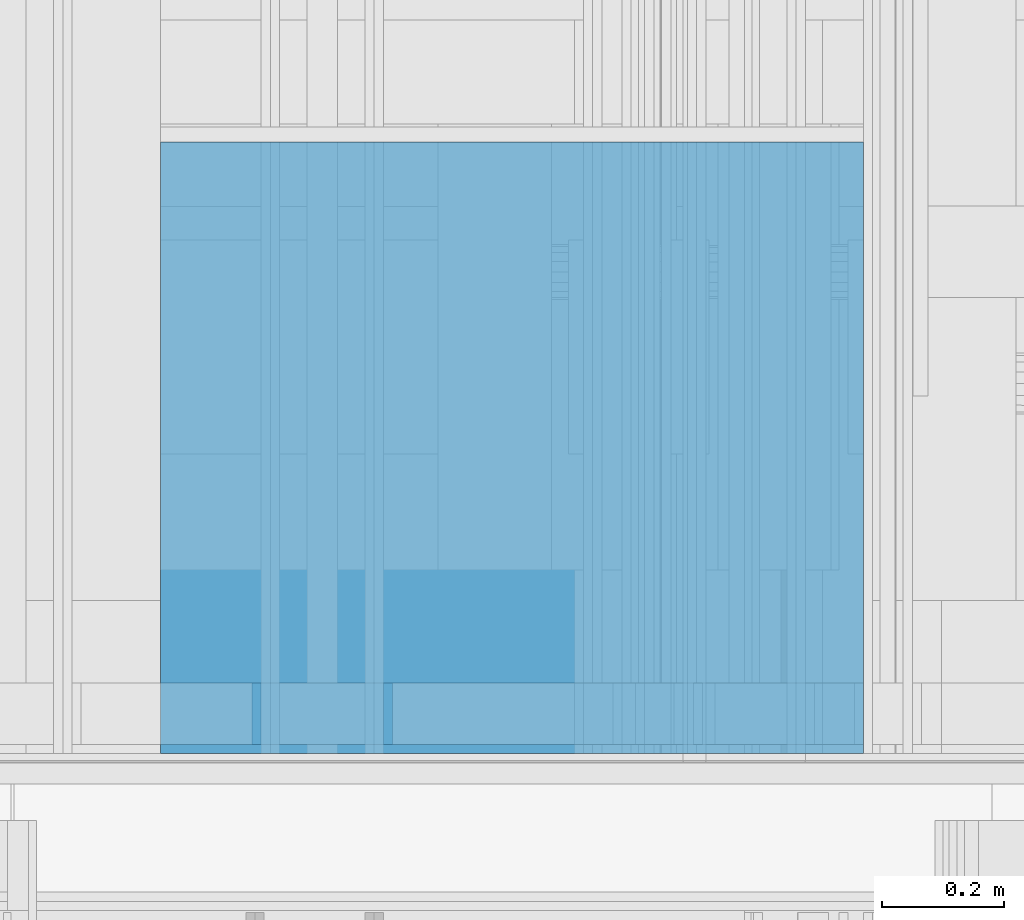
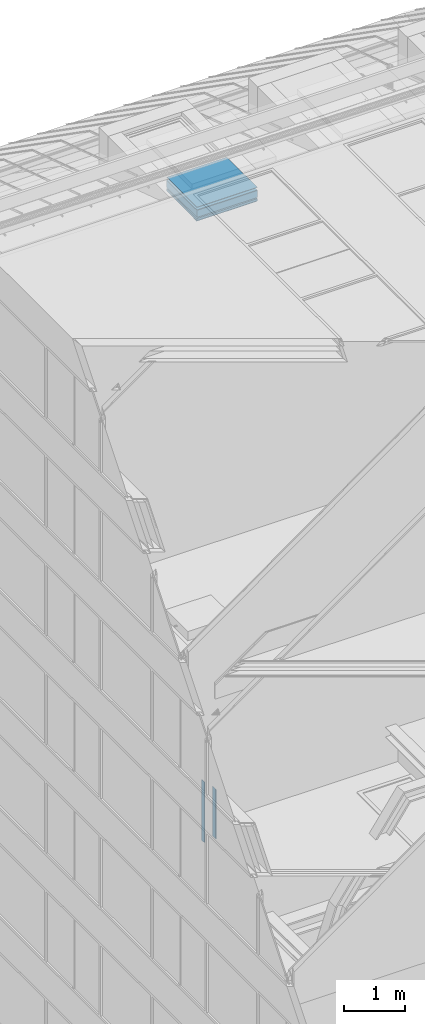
# One storey, part 137 of 583: 8 building element parts, 2 elements without a shape of their own.
"""IFC2X3 building model written with IfcOpenShell, lengths in metres."""

from ifc_helpers import new_model, entity, si_unit, converted_unit, derived_unit, money_unit, direction, frame, frame_2d, origin_with_axes, place, context, subcontext, project, spatial, polyline, rectangle, outline, extrude, material, type_object, element, aggregate, save


model = new_model("IFC2X3")

# Units and contexts
model_context = context("Model", 3, precision=1e-05, world=origin_with_axes(), true_north=direction((0.0, 1.0)))
body_context = subcontext(model_context, "Body", "Model", "MODEL_VIEW", scale=1.0)
ifc_project = project(units=[si_unit("LENGTHUNIT", "METRE"), si_unit("AREAUNIT", "SQUARE_METRE"), si_unit("VOLUMEUNIT", "CUBIC_METRE"), si_unit("ABSORBEDDOSEUNIT", "GRAY"), si_unit("AMOUNTOFSUBSTANCEUNIT", "MOLE"), si_unit("DOSEEQUIVALENTUNIT", "SIEVERT"), si_unit("ELECTRICCAPACITANCEUNIT", "FARAD"), si_unit("ELECTRICCHARGEUNIT", "COULOMB"), si_unit("ELECTRICCONDUCTANCEUNIT", "SIEMENS"), si_unit("ELECTRICCURRENTUNIT", "AMPERE"), si_unit("ELECTRICRESISTANCEUNIT", "OHM"), si_unit("ELECTRICVOLTAGEUNIT", "VOLT"), si_unit("ENERGYUNIT", "JOULE"), si_unit("FORCEUNIT", "NEWTON"), si_unit("FREQUENCYUNIT", "HERTZ"), si_unit("ILLUMINANCEUNIT", "LUX"), si_unit("INDUCTANCEUNIT", "HENRY"), si_unit("LUMINOUSFLUXUNIT", "LUMEN"), si_unit("LUMINOUSINTENSITYUNIT", "CANDELA"), si_unit("MAGNETICFLUXDENSITYUNIT", "TESLA"), si_unit("MAGNETICFLUXUNIT", "WEBER"), si_unit("MASSUNIT", "GRAM"), converted_unit("PLANEANGLEUNIT", "degree", entity("IfcReal", 0.0174532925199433), si_unit("PLANEANGLEUNIT", "RADIAN"), dimensions=[0, 0, 0, 0, 0, 0, 0]), si_unit("POWERUNIT", "WATT"), si_unit("PRESSUREUNIT", "PASCAL"), si_unit("RADIOACTIVITYUNIT", "BECQUEREL"), si_unit("SOLIDANGLEUNIT", "STERADIAN"), si_unit("THERMODYNAMICTEMPERATUREUNIT", "KELVIN"), si_unit("TIMEUNIT", "SECOND"), derived_unit("ACCELERATIONUNIT", [(si_unit("LENGTHUNIT", "METRE"), 1), (si_unit("TIMEUNIT", "SECOND"), -2)]), derived_unit("ANGULARVELOCITYUNIT", [(converted_unit("PLANEANGLEUNIT", "degree", entity("IfcReal", 0.0174532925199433), si_unit("PLANEANGLEUNIT", "RADIAN"), dimensions=[0, 0, 0, 0, 0, 0, 0]), 1), (si_unit("TIMEUNIT", "SECOND"), -1)]), derived_unit("CURVATUREUNIT", [(converted_unit("PLANEANGLEUNIT", "degree", entity("IfcReal", 0.0174532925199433), si_unit("PLANEANGLEUNIT", "RADIAN"), dimensions=[0, 0, 0, 0, 0, 0, 0]), 1), (si_unit("LENGTHUNIT", "METRE"), -1)]), derived_unit("DYNAMICVISCOSITYUNIT", [(si_unit("PRESSUREUNIT", "PASCAL"), 1), (si_unit("TIMEUNIT", "SECOND"), 1)]), derived_unit("HEATFLUXDENSITYUNIT", [(si_unit("POWERUNIT", "WATT"), 1), (si_unit("LENGTHUNIT", "METRE"), -2)]), derived_unit("HEATINGVALUEUNIT", [(si_unit("ENERGYUNIT", "JOULE"), 1), (si_unit("MASSUNIT", "GRAM"), -1)]), derived_unit("INTEGERCOUNTRATEUNIT", [(si_unit("TIMEUNIT", "SECOND"), -1)]), derived_unit("IONCONCENTRATIONUNIT", [(si_unit("MASSUNIT", "GRAM"), 1), (si_unit("VOLUMEUNIT", "CUBIC_METRE"), -1)]), derived_unit("ISOTHERMALMOISTURECAPACITYUNIT", [(si_unit("VOLUMEUNIT", "CUBIC_METRE"), 1), (si_unit("MASSUNIT", "GRAM"), -1)]), derived_unit("KINEMATICVISCOSITYUNIT", [(si_unit("AREAUNIT", "SQUARE_METRE"), 1), (si_unit("TIMEUNIT", "SECOND"), -1)]), derived_unit("LINEARFORCEUNIT", [(si_unit("FORCEUNIT", "NEWTON"), 1), (si_unit("LENGTHUNIT", "METRE"), -1)]), derived_unit("LINEARMOMENTUNIT", [(si_unit("FORCEUNIT", "NEWTON"), 1), (si_unit("LENGTHUNIT", "METRE"), -1)]), derived_unit("LINEARSTIFFNESSUNIT", [(si_unit("FORCEUNIT", "NEWTON"), 1), (si_unit("LENGTHUNIT", "METRE"), -1)]), derived_unit("LINEARVELOCITYUNIT", [(si_unit("LENGTHUNIT", "METRE"), 1), (si_unit("TIMEUNIT", "SECOND"), -1)]), derived_unit("LUMINOUSINTENSITYDISTRIBUTIONUNIT", [(si_unit("LUMINOUSINTENSITYUNIT", "CANDELA"), 1), (si_unit("LUMINOUSFLUXUNIT", "LUMEN"), -1)]), derived_unit("MASSDENSITYUNIT", [(si_unit("MASSUNIT", "GRAM"), 1), (si_unit("VOLUMEUNIT", "CUBIC_METRE"), -1)]), derived_unit("MASSFLOWRATEUNIT", [(si_unit("MASSUNIT", "GRAM"), 1), (si_unit("TIMEUNIT", "SECOND"), -1)]), derived_unit("MASSPERLENGTHUNIT", [(si_unit("MASSUNIT", "GRAM"), 1), (si_unit("LENGTHUNIT", "METRE"), -1)]), derived_unit("MODULUSOFELASTICITYUNIT", [(si_unit("FORCEUNIT", "NEWTON"), 1), (si_unit("AREAUNIT", "SQUARE_METRE"), -1)]), derived_unit("MODULUSOFLINEARSUBGRADEREACTIONUNIT", [(si_unit("FORCEUNIT", "NEWTON"), 1), (si_unit("LENGTHUNIT", "METRE"), -2)]), derived_unit("MODULUSOFROTATIONALSUBGRADEREACTIONUNIT", [(si_unit("FORCEUNIT", "NEWTON"), 1), (si_unit("LENGTHUNIT", "METRE"), 1)]), derived_unit("MODULUSOFSUBGRADEREACTIONUNIT", [(si_unit("FORCEUNIT", "NEWTON"), 1), (si_unit("VOLUMEUNIT", "CUBIC_METRE"), -1)]), derived_unit("MOISTUREDIFFUSIVITYUNIT", [(si_unit("VOLUMEUNIT", "CUBIC_METRE"), 1), (si_unit("TIMEUNIT", "SECOND"), -1)]), derived_unit("MOLECULARWEIGHTUNIT", [(si_unit("MASSUNIT", "GRAM"), 1), (si_unit("AMOUNTOFSUBSTANCEUNIT", "MOLE"), -1)]), derived_unit("PLANARFORCEUNIT", [(si_unit("FORCEUNIT", "NEWTON"), 1), (si_unit("LENGTHUNIT", "METRE"), -2)]), derived_unit("ROTATIONALFREQUENCYUNIT", [(si_unit("TIMEUNIT", "SECOND"), -1)]), derived_unit("ROTATIONALMASSUNIT", [(si_unit("MASSUNIT", "GRAM"), 1), (si_unit("LENGTHUNIT", "METRE"), 2)]), derived_unit("ROTATIONALSTIFFNESSUNIT", [(si_unit("FORCEUNIT", "NEWTON"), 1), (si_unit("LENGTHUNIT", "METRE"), 1), (converted_unit("PLANEANGLEUNIT", "degree", entity("IfcReal", 0.0174532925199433), si_unit("PLANEANGLEUNIT", "RADIAN"), dimensions=[0, 0, 0, 0, 0, 0, 0]), -1)]), derived_unit("SECTIONAREAINTEGRALUNIT", [(si_unit("LENGTHUNIT", "METRE"), 5)]), derived_unit("SECTIONMODULUSUNIT", [(si_unit("LENGTHUNIT", "METRE"), 3)]), derived_unit("SHEARMODULUSUNIT", [(si_unit("FORCEUNIT", "NEWTON"), 1), (si_unit("AREAUNIT", "SQUARE_METRE"), -1)]), derived_unit("SOUNDPOWERUNIT", [(si_unit("ENERGYUNIT", "JOULE"), 1), (si_unit("TIMEUNIT", "SECOND"), -1)]), derived_unit("SPECIFICHEATCAPACITYUNIT", [(si_unit("FORCEUNIT", "NEWTON"), 1), (si_unit("MASSUNIT", "GRAM"), -1), (si_unit("THERMODYNAMICTEMPERATUREUNIT", "KELVIN"), -1)]), derived_unit("TEMPERATUREGRADIENTUNIT", [(si_unit("THERMODYNAMICTEMPERATUREUNIT", "KELVIN"), 1), (si_unit("LENGTHUNIT", "METRE"), -1)]), derived_unit("THERMALADMITTANCEUNIT", [(si_unit("POWERUNIT", "WATT"), 1), (si_unit("AREAUNIT", "SQUARE_METRE"), -1), (si_unit("THERMODYNAMICTEMPERATUREUNIT", "KELVIN"), -1)]), derived_unit("THERMALCONDUCTANCEUNIT", [(si_unit("POWERUNIT", "WATT"), 1), (si_unit("LENGTHUNIT", "METRE"), -1), (si_unit("THERMODYNAMICTEMPERATUREUNIT", "KELVIN"), -1)]), derived_unit("THERMALEXPANSIONCOEFFICIENTUNIT", [(si_unit("THERMODYNAMICTEMPERATUREUNIT", "KELVIN"), -1)]), derived_unit("THERMALRESISTANCEUNIT", [(si_unit("AREAUNIT", "SQUARE_METRE"), 1), (si_unit("POWERUNIT", "WATT"), -1)]), derived_unit("THERMALTRANSMITTANCEUNIT", [(si_unit("POWERUNIT", "WATT"), 1), (si_unit("AREAUNIT", "SQUARE_METRE"), -1), (si_unit("THERMODYNAMICTEMPERATUREUNIT", "KELVIN"), -1)]), derived_unit("TORQUEUNIT", [(si_unit("FORCEUNIT", "NEWTON"), 1), (si_unit("LENGTHUNIT", "METRE"), 1)]), derived_unit("VAPORPERMEABILITYUNIT", [(si_unit("MASSUNIT", "GRAM"), 1), (si_unit("TIMEUNIT", "SECOND"), -1)]), derived_unit("VOLUMETRICFLOWRATEUNIT", [(si_unit("VOLUMEUNIT", "CUBIC_METRE"), 1), (si_unit("TIMEUNIT", "SECOND"), -1)]), derived_unit("WARPINGCONSTANTUNIT", [(si_unit("LENGTHUNIT", "METRE"), 6)]), derived_unit("WARPINGMOMENTUNIT", [(si_unit("FORCEUNIT", "NEWTON"), 1), (si_unit("LENGTHUNIT", "METRE"), 2)]), money_unit("GBP")], contexts=[model_context])

# Site, building, storey
site_placement = place(None, origin_with_axes())
site = spatial("IfcSite", under=ifc_project, at=site_placement, Name="Site", CompositionType="ELEMENT")
building_placement = place(site_placement, origin_with_axes())
building = spatial("IfcBuilding", under=site, at=building_placement, Name="Building01", CompositionType="ELEMENT")
storey_placement = place(building_placement, frame((0.0, 0.0, 20.78), z_axis=(0.0, 0.0, 1.0), x_axis=(1.0, 0.0, 0.0)))
storey = spatial("IfcBuildingStorey", under=building, at=storey_placement, Name="RL", CompositionType="ELEMENT", Elevation=20.78)

# Wall, building element parts
wall_type_1 = type_object("IfcWallType", Name="SHE_A-Walls_Type01d_Partywall_200mm_twin", PredefinedType="NOTDEFINED")
wall_1_placement = place(storey_placement, frame((4.314428, 14.98, -6.08), z_axis=(0.0, 1.0, 0.0), x_axis=(0.0, 0.0, -1.0)))
wall_1 = element("IfcWall", 1, at=wall_1_placement, inside=storey, type_object=wall_type_1, Name="1D", ObjectType="SHE_A-Walls_Type01d_Partywall_200mm_twin")
ifc_material_1 = material(Name="A_BSUK_Walls_Timber")
placement_1 = place(wall_1_placement, origin_with_axes())
building_element_part_1 = element("IfcBuildingElementPart", 2, at=placement_1, material=ifc_material_1, Name="3", context=body_context, shape_type="SweptSolid", body=[
    extrude(outline(polyline([(1.085, 0.14), (-0.14, 0.14), (-0.125, 0.125), (1.085, 0.125), (1.085, 0.14)])), frame((0.0, 0.0, 0.015), z_axis=(0.0, 0.0, 1.0), x_axis=(1.0, 0.0, 0.0)), (0.0, 0.0, 1.0), 0.1),
])
building_element_part_2 = element("IfcBuildingElementPart", 3, at=placement_1, material=ifc_material_1, Name="8", context=body_context, shape_type="SweptSolid", body=[
    extrude(outline(polyline([(1.085, -0.075), (0.075, -0.075), (0.09, -0.09), (1.085, -0.09), (1.085, -0.075)])), frame((0.0, 0.0, 0.015), z_axis=(0.0, 0.0, 1.0), x_axis=(1.0, 0.0, 0.0)), (0.0, 0.0, 1.0), 0.1),
])
aggregate(wall_1, [building_element_part_1, building_element_part_2])

wall_type_2 = type_object("IfcWallType", Name="SHE_A-Walls_Type06e_ExternalWallPenthouse_280mm", PredefinedType="NOTDEFINED")
wall_2_placement = place(storey_placement, frame((5.174915, 14.98, 5.635061), z_axis=(0.0, 1.0, 0.0), x_axis=(-1.0, 0.0, 0.0)))
wall_2 = element("IfcWall", 4, at=wall_2_placement, inside=storey, type_object=wall_type_2, Name="6E", ObjectType="SHE_A-Walls_Type06e_ExternalWallPenthouse_280mm")
ifc_material_2 = material(Name="A_BSUK_Insulation")
placement_2 = place(wall_2_placement, origin_with_axes())
building_element_part_3 = element("IfcBuildingElementPart", 5, at=placement_2, material=ifc_material_2, Name="1", context=body_context, shape_type="SweptSolid", body=[
    extrude(rectangle(XDim=1.149951, YDim=0.14, at=frame_2d((0.574976, -0.07), x_axis=(-1.0, 0.0))), origin_with_axes(), (0.0, 0.0, 1.0), 1.0),
])
building_element_part_4 = element("IfcBuildingElementPart", 6, at=placement_2, material=ifc_material_2, Name="2", context=body_context, shape_type="SweptSolid", body=[
    extrude(rectangle(XDim=1.149951, YDim=0.04, at=frame_2d((0.574976, -0.185), x_axis=(-1.0, 0.0))), origin_with_axes(), (0.0, 0.0, 1.0), 1.0),
])
building_element_part_5 = element("IfcBuildingElementPart", 7, at=placement_2, material=ifc_material_1, Name="3", context=body_context, shape_type="SweptSolid", body=[
    extrude(rectangle(XDim=1.149951, YDim=0.015, at=frame_2d((0.574976, -0.2225), x_axis=(-1.0, 0.0))), frame((0.0, 0.0, 0.015), z_axis=(0.0, 0.0, 1.0), x_axis=(1.0, 0.0, 0.0)), (0.0, 0.0, 1.0), 0.1),
])
ifc_material_3 = material(Name="A_BSUK_WallInternal_Finishes_Plasterboard")
building_element_part_6 = element("IfcBuildingElementPart", 8, at=placement_2, material=ifc_material_3, Name="4", context=body_context, shape_type="SweptSolid", body=[
    extrude(rectangle(XDim=1.149951, YDim=0.01, at=frame_2d((0.574976, -0.21), x_axis=(-1.0, 0.0))), origin_with_axes(), (0.0, 0.0, 1.0), 1.0),
])
building_element_part_7 = element("IfcBuildingElementPart", 9, at=placement_2, material=ifc_material_1, Name="5", context=body_context, shape_type="SweptSolid", body=[
    extrude(rectangle(XDim=1.149951, YDim=0.01, at=frame_2d((0.574976, 0.005), x_axis=(-1.0, 0.0))), origin_with_axes(), (0.0, 0.0, 1.0), 1.0),
])
ifc_material_4 = material(Name="A_BSUK_WallInternal_Finishes_Metal")
building_element_part_8 = element("IfcBuildingElementPart", 10, at=placement_2, material=ifc_material_4, Name="6", context=body_context, shape_type="SweptSolid", body=[
    extrude(rectangle(XDim=1.149951, YDim=0.005, at=frame_2d((0.574976, 0.0625), x_axis=(-1.0, 0.0))), origin_with_axes(), (0.0, 0.0, 1.0), 1.0),
])
aggregate(wall_2, [building_element_part_3, building_element_part_4, building_element_part_5, building_element_part_6, building_element_part_7, building_element_part_8])

save(model, "model.ifc")
